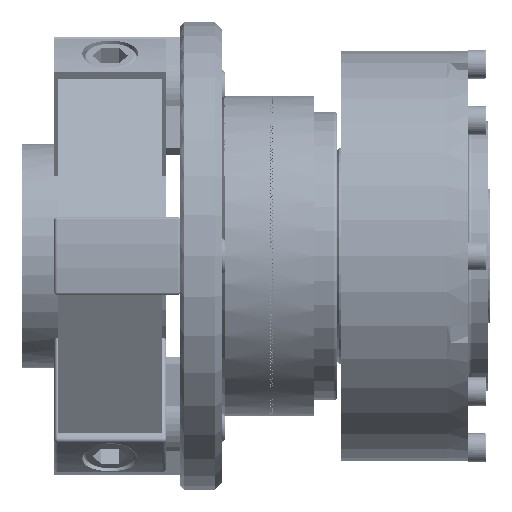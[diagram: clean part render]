
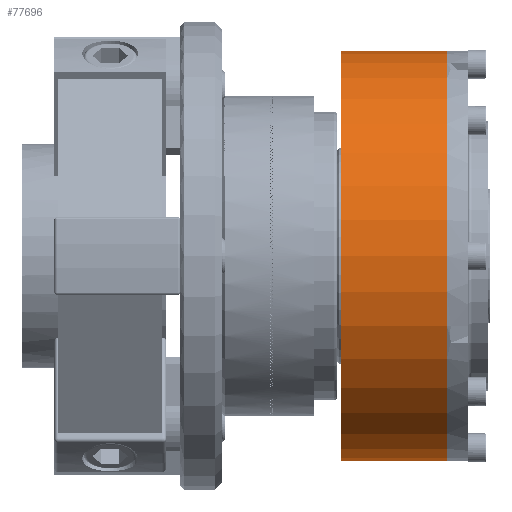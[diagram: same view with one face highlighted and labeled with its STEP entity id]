
A CAD part, front view. The second image highlights one B-rep face of the part: STEP entity #77696.
In plain terms, the highlighted cylindrical face has radius 114 mm (diameter 228 mm), a full revolution.
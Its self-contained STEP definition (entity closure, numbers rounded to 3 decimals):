
#595=B_SPLINE_CURVE_WITH_KNOTS('',3,(#123727,#123728,#123729,#123730,#123731,
#123732,#123733,#123734,#123735,#123736,#123737,#123738,#123739,#123740,
#123741,#123742,#123743,#123744),.UNSPECIFIED.,.F.,.F.,(4,2,2,2,2,2,2,2,
4),(0.862,1.078,1.294,1.509,
1.725,1.94,2.156,2.372,2.587),
 .UNSPECIFIED.);
#596=B_SPLINE_CURVE_WITH_KNOTS('',3,(#123745,#123746,#123747,#123748,#123749,
#123750,#123751,#123752,#123753,#123754,#123755,#123756,#123757,#123758,
#123759,#123760,#123761,#123762,#123763),.UNSPECIFIED.,.F.,.F.,(4,2,2,2,
3,2,2,2,4),(2.587,2.803,3.018,3.234,
3.45,3.665,3.881,4.096,4.312),
 .UNSPECIFIED.);
#5310=FACE_BOUND('',#14037,.T.);
#9829=FACE_OUTER_BOUND('',#14036,.T.);
#14036=EDGE_LOOP('',(#55108,#55109,#55110,#55111));
#14037=EDGE_LOOP('',(#55112,#55113));
#18597=LINE('',#123774,#22016);
#22016=VECTOR('',#99490,114.);
#24861=CIRCLE('',#84134,114.);
#24863=CIRCLE('',#84137,114.);
#30469=VERTEX_POINT('',#123725);
#30470=VERTEX_POINT('',#123726);
#30471=VERTEX_POINT('',#123767);
#30473=VERTEX_POINT('',#123772);
#39656=EDGE_CURVE('',#30469,#30470,#595,.T.);
#39657=EDGE_CURVE('',#30470,#30469,#596,.T.);
#39660=EDGE_CURVE('',#30471,#30471,#24861,.T.);
#39662=EDGE_CURVE('',#30473,#30473,#24863,.T.);
#39663=EDGE_CURVE('',#30473,#30471,#18597,.T.);
#55108=ORIENTED_EDGE('',*,*,#39662,.F.);
#55109=ORIENTED_EDGE('',*,*,#39663,.T.);
#55110=ORIENTED_EDGE('',*,*,#39660,.T.);
#55111=ORIENTED_EDGE('',*,*,#39663,.F.);
#55112=ORIENTED_EDGE('',*,*,#39656,.T.);
#55113=ORIENTED_EDGE('',*,*,#39657,.T.);
#72403=CYLINDRICAL_SURFACE('',#84136,114.);
#77696=ADVANCED_FACE('',(#9829,#5310),#72403,.T.);
#84134=AXIS2_PLACEMENT_3D('',#123768,#99482,#99483);
#84136=AXIS2_PLACEMENT_3D('',#123771,#99486,#99487);
#84137=AXIS2_PLACEMENT_3D('',#123773,#99488,#99489);
#99482=DIRECTION('center_axis',(1.,0.,0.));
#99483=DIRECTION('ref_axis',(0.,1.,0.));
#99486=DIRECTION('center_axis',(1.,0.,0.));
#99487=DIRECTION('ref_axis',(0.,1.,0.));
#99488=DIRECTION('center_axis',(1.,0.,0.));
#99489=DIRECTION('ref_axis',(0.,1.,0.));
#99490=DIRECTION('',(-1.,0.,0.));
#123725=CARTESIAN_POINT('',(6.277,114.,0.));
#123726=CARTESIAN_POINT('',(17.723,114.,0.));
#123727=CARTESIAN_POINT('Ctrl Pts',(6.277,114.,0.));
#123728=CARTESIAN_POINT('Ctrl Pts',(6.277,114.,-0.719));
#123729=CARTESIAN_POINT('Ctrl Pts',(6.421,113.993,-1.485));
#123730=CARTESIAN_POINT('Ctrl Pts',(7.005,113.965,-2.895));
#123731=CARTESIAN_POINT('Ctrl Pts',(7.446,113.946,-3.538));
#123732=CARTESIAN_POINT('Ctrl Pts',(8.462,113.91,-4.554));
#123733=CARTESIAN_POINT('Ctrl Pts',(9.105,113.891,-4.995));
#123734=CARTESIAN_POINT('Ctrl Pts',(10.515,113.864,-5.579));
#123735=CARTESIAN_POINT('Ctrl Pts',(11.281,113.856,-5.723));
#123736=CARTESIAN_POINT('Ctrl Pts',(12.719,113.856,-5.723));
#123737=CARTESIAN_POINT('Ctrl Pts',(13.485,113.864,-5.579));
#123738=CARTESIAN_POINT('Ctrl Pts',(14.895,113.891,-4.995));
#123739=CARTESIAN_POINT('Ctrl Pts',(15.538,113.91,-4.554));
#123740=CARTESIAN_POINT('Ctrl Pts',(16.554,113.946,-3.538));
#123741=CARTESIAN_POINT('Ctrl Pts',(16.995,113.965,-2.895));
#123742=CARTESIAN_POINT('Ctrl Pts',(17.579,113.993,-1.485));
#123743=CARTESIAN_POINT('Ctrl Pts',(17.723,114.,-0.719));
#123744=CARTESIAN_POINT('Ctrl Pts',(17.723,114.,0.));
#123745=CARTESIAN_POINT('Ctrl Pts',(17.723,114.,0.));
#123746=CARTESIAN_POINT('Ctrl Pts',(17.723,114.,0.719));
#123747=CARTESIAN_POINT('Ctrl Pts',(17.579,113.993,1.485));
#123748=CARTESIAN_POINT('Ctrl Pts',(16.995,113.965,2.895));
#123749=CARTESIAN_POINT('Ctrl Pts',(16.554,113.946,3.538));
#123750=CARTESIAN_POINT('Ctrl Pts',(15.538,113.91,4.554));
#123751=CARTESIAN_POINT('Ctrl Pts',(14.895,113.891,4.995));
#123752=CARTESIAN_POINT('Ctrl Pts',(13.485,113.864,5.579));
#123753=CARTESIAN_POINT('Ctrl Pts',(12.719,113.856,5.723));
#123754=CARTESIAN_POINT('Ctrl Pts',(12.,113.856,5.723));
#123755=CARTESIAN_POINT('Ctrl Pts',(11.281,113.856,5.723));
#123756=CARTESIAN_POINT('Ctrl Pts',(10.515,113.864,5.579));
#123757=CARTESIAN_POINT('Ctrl Pts',(9.105,113.891,4.995));
#123758=CARTESIAN_POINT('Ctrl Pts',(8.462,113.91,4.554));
#123759=CARTESIAN_POINT('Ctrl Pts',(7.446,113.946,3.538));
#123760=CARTESIAN_POINT('Ctrl Pts',(7.005,113.965,2.895));
#123761=CARTESIAN_POINT('Ctrl Pts',(6.421,113.993,1.485));
#123762=CARTESIAN_POINT('Ctrl Pts',(6.277,114.,0.719));
#123763=CARTESIAN_POINT('Ctrl Pts',(6.277,114.,0.));
#123767=CARTESIAN_POINT('',(3.,-114.,0.));
#123768=CARTESIAN_POINT('Origin',(3.,0.,0.));
#123771=CARTESIAN_POINT('Origin',(32.5,0.,0.));
#123772=CARTESIAN_POINT('',(62.,-114.,0.));
#123773=CARTESIAN_POINT('Origin',(62.,0.,0.));
#123774=CARTESIAN_POINT('',(32.5,-114.,0.));
